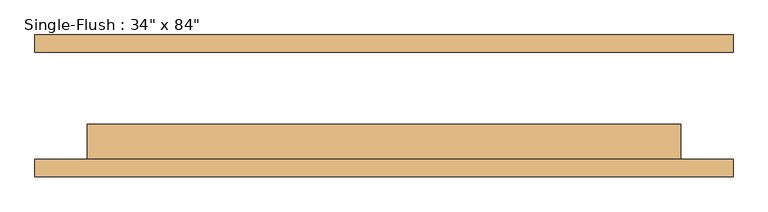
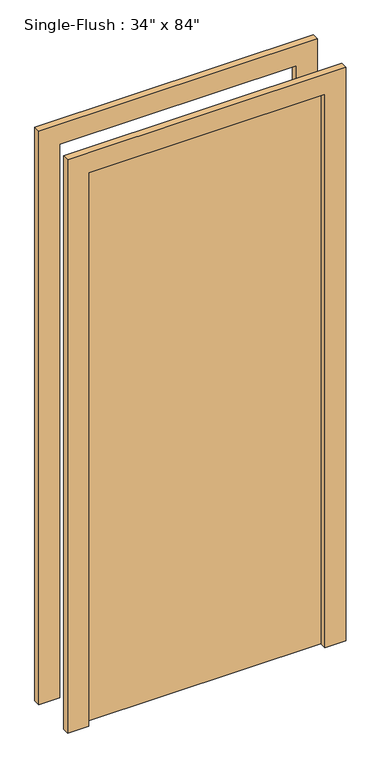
"""IFC4 building model written with IfcOpenShell, lengths in millimetres: door geometry."""

from ifc_helpers import new_model, si_unit, frame, origin, origin_with_axes, place, context, project, spatial, polyline, outline, extrude, source, transform, mapped, element, save


def door_1264ff72(model_context):
    return source(origin(), model_context, "Body", "SweptSolid", [
        extrude(outline(polyline([(2209.8, -508.0), (0.0, -508.0), (0.0, -431.8), (2133.6, -431.8), (2133.6, 431.8), (0.0, 431.8), (0.0, 508.0), (2209.8, 508.0), (2209.8, -508.0)])), frame((0.0, -103.1875, 0.0), z_axis=(0.0, 1.0, 0.0), x_axis=(0.0, 0.0, 1.0)), (0.0, 0.0, 1.0), 25.4),
        extrude(outline(polyline([(2209.8, 508.0), (2209.8, -508.0), (0.0, -508.0), (0.0, -431.8), (2133.6, -431.8), (2133.6, 431.8), (0.0, 431.8), (0.0, 508.0), (2209.8, 508.0)])), frame((0.0, 77.7875, 0.0), z_axis=(0.0, 1.0, 0.0), x_axis=(0.0, 0.0, 1.0)), (0.0, 0.0, 1.0), 25.4),
        extrude(outline(polyline([(431.8, -26.9875), (431.8, -77.7875), (-431.8, -77.7875), (-431.8, -26.9875), (431.8, -26.9875)])), origin_with_axes(), (0.0, 0.0, 1.0), 2133.6),
    ])


if __name__ == "__main__":
    model = new_model("IFC4")
    model_context = context("Model", 3, world=origin())
    ifc_project = project(units=[si_unit("LENGTHUNIT", "METRE", prefix="MILLI")], contexts=[model_context])
    site = spatial("IfcSite", under=ifc_project)
    building = spatial("IfcBuilding", under=site)
    placement = place(None, origin())
    door_shape = door_1264ff72(model_context)
    element("IfcDoor", 1, ObjectType="Single-Flush : 34\" x 84\"", at=placement, inside=building, context=model_context, shape_type="MappedRepresentation", body=[
        mapped(door_shape, transform((0.0, 0.0, 0.0), x_axis=(1.0, 0.0, 0.0), y_axis=(0.0, 1.0, 0.0), z_axis=(0.0, 0.0, 1.0))),
    ])
    save(model, "model.ifc")
